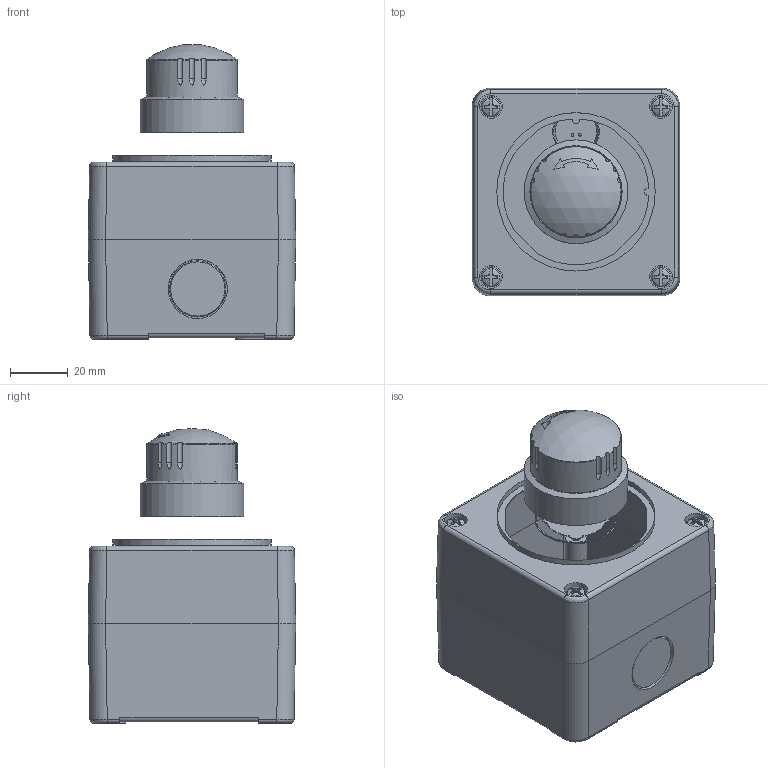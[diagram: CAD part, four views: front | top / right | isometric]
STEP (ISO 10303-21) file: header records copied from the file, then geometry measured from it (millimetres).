
FILE_DESCRIPTION(/* description */ (''),/* implementation_level */ '2;1');
FILE_NAME(/* name */ 'SIL_QRBLUVOO_vereinfacht.stp',/* time_stamp */ '2024-07-02T09:52:52+02:00',/* author */ ('Sz'),/* organization */ (''),/* preprocessor_version */ 'ST-DEVELOPER v19.2',/* originating_system */ 'Autodesk Inventor 2023',/* authorisation */ '');
FILE_SCHEMA (('AUTOMOTIVE_DESIGN { 1 0 10303 214 3 1 1 }'));
Length unit declared in the file: centimetre
Products named in the file (1): Bauteil6718
Bounding box: 72 x 72 x 102.3 mm (x, y, z)
Volume: 346197.2 mm3; surface area: 38305.3 mm2
Topology: 1 solids, 5 shells, 386 faces, 981 edges, 641 vertices
Faces by surface type: plane 159, cylinder 138, bspline 33, cone 29, torus 17, sphere 10
Full cylindrical faces by diameter (mm): 1 x2, 2.8 x4, 3.2 x20, 3.5 x4, 5 x8, 7 x4, 7.6 x4, 8 x4, 16.2 x1, 20.5 x2, 27.65 x1, 28.5 x1, 31.5 x1, 36 x1, 55 x1
Entity records: 25851 total; most frequent: CARTESIAN_POINT 16102, ORIENTED_EDGE 1962, DIRECTION 1885, EDGE_CURVE 981, AXIS2_PLACEMENT_3D 746, VERTEX_POINT 641, EDGE_LOOP 436, LINE 393
